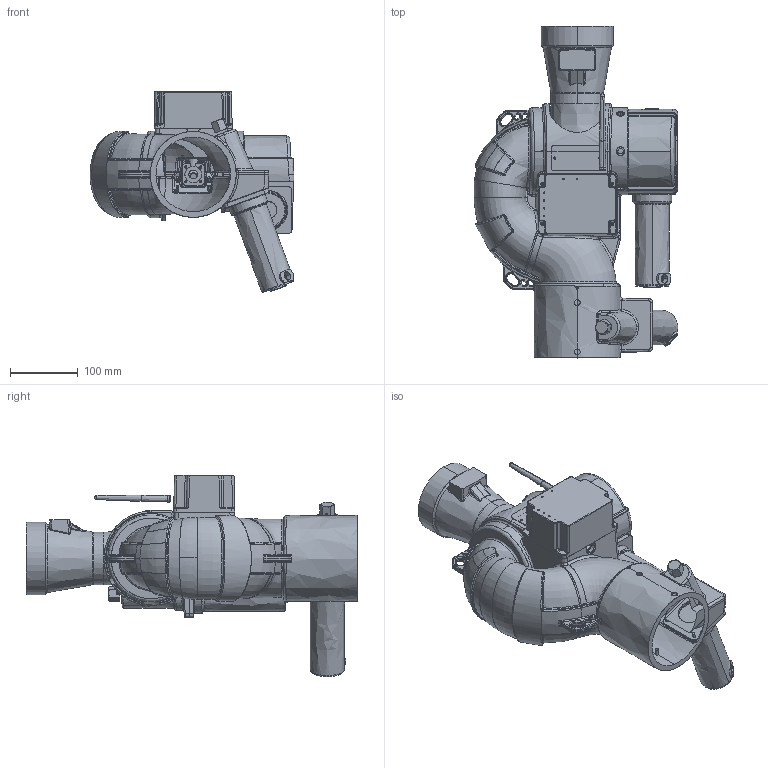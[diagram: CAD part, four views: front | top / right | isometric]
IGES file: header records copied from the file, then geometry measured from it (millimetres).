
Start section: SolidWorks IGES file using NURBS representation for surfaces
Global section: file name: C:\Jobs\Elkhart Brass\1481 Dumb Down Models\7250 HD - No Base\7250 HD - No Base\7250 HD - No BaseDD.IGS; native system: SolidWorks 2013; preprocessor: SolidWorks 2013; author: RAsire; date: 131029.132034; units: inch
Bounding box: 301.35 x 490.31 x 297.17 mm (x, y, z)
Volume: 4130971.2 mm3; surface area: 625630.9 mm2
Topology: 11 solids, 11 shells, 1946 faces, 9821 edges, 8931 vertices
Faces by surface type: bspline 1946
